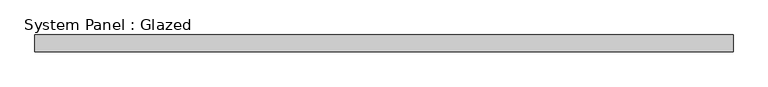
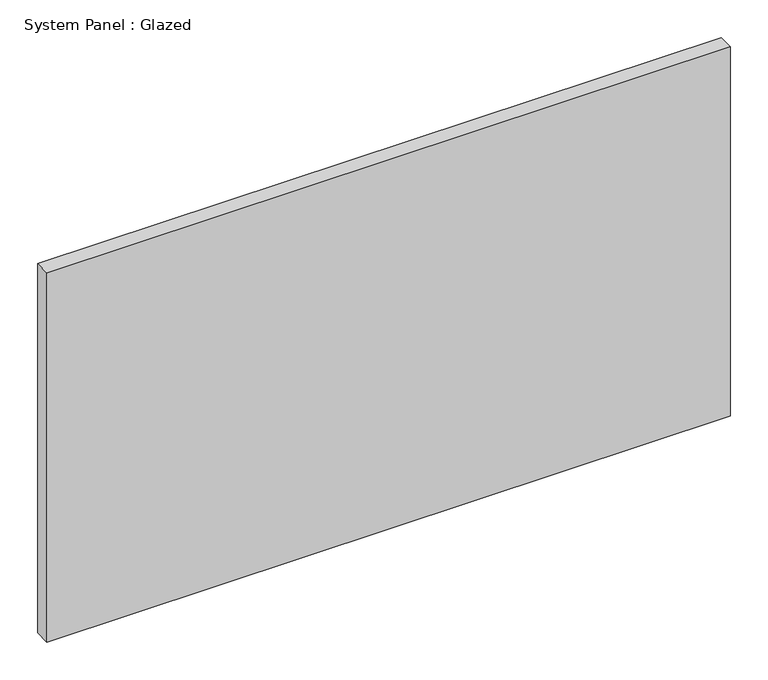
"""IFC4 building model written with IfcOpenShell, lengths in millimetres: plate geometry, System Panel : Glazed."""

from ifc_helpers import new_model, si_unit, origin, origin_with_axes, place, context, project, spatial, polyline, outline, extrude, source, transform, mapped, element, save


def system_panel_glazed_70b58251(model_context):
    return source(origin(), model_context, "Body", "SweptSolid", [
        extrude(outline(polyline([(525.0000001, 24.5), (-525.0000001, 24.5), (-525.0000001, 49.5), (525.0000001, 49.5), (525.0000001, 24.5)])), origin_with_axes(), (0.0, 0.0, 1.0), 600.0),
    ])


if __name__ == "__main__":
    model = new_model("IFC4")
    model_context = context("Model", 3, world=origin())
    ifc_project = project(units=[si_unit("LENGTHUNIT", "METRE", prefix="MILLI")], contexts=[model_context])
    site = spatial("IfcSite", under=ifc_project)
    building = spatial("IfcBuilding", under=site)
    placement = place(None, origin())
    system_panel_glazed_shape = system_panel_glazed_70b58251(model_context)
    element("IfcPlate", 1, ObjectType="System Panel : Glazed", at=placement, inside=building, context=model_context, shape_type="MappedRepresentation", body=[
        mapped(system_panel_glazed_shape, transform((0.0, 0.0, 0.0), x_axis=(1.0, 0.0, 0.0), y_axis=(0.0, 1.0, 0.0), z_axis=(0.0, 0.0, 1.0))),
    ])
    save(model, "model.ifc")
